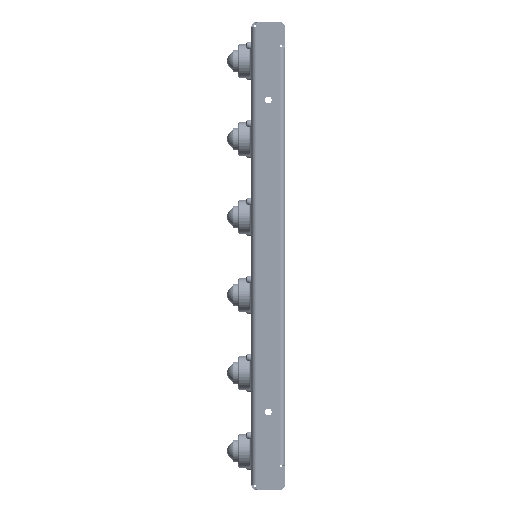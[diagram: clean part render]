
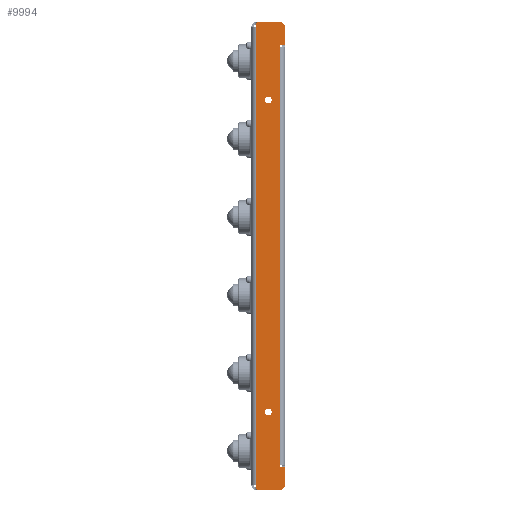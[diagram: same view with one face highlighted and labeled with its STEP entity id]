
A CAD part, left-side view. The second image highlights one B-rep face of the part: STEP entity #9994.
In plain terms, the highlighted planar face has unit normal (-1, 0, 0) as drawn and (0, 0, -1) by its records, which use the part's own axes.
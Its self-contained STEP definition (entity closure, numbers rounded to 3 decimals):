
#909=FACE_BOUND('',#3102,.T.);
#910=FACE_BOUND('',#3103,.T.);
#1283=CIRCLE('',#10387,1.);
#1286=CIRCLE('',#10394,1.);
#1659=CIRCLE('',#10961,4.5);
#1661=CIRCLE('',#10965,4.5);
#1672=CIRCLE('',#10994,2.);
#1673=CIRCLE('',#10997,6.4);
#1674=CIRCLE('',#10998,2.);
#1675=CIRCLE('',#10999,6.4);
#2608=FACE_OUTER_BOUND('',#3101,.T.);
#3101=EDGE_LOOP('',(#8281,#8282,#8283,#8284,#8285,#8286,#8287,#8288,#8289,
#8290,#8291,#8292,#8293,#8294,#8295,#8296,#8297,#8298,#8299,#8300));
#3102=EDGE_LOOP('',(#8301));
#3103=EDGE_LOOP('',(#8302));
#3817=LINE('',#15119,#4454);
#3829=LINE('',#15195,#4466);
#3834=LINE('',#15210,#4471);
#3835=LINE('',#15212,#4472);
#3836=LINE('',#15214,#4473);
#3837=LINE('',#15216,#4474);
#3838=LINE('',#15217,#4475);
#4096=LINE('',#16674,#4733);
#4098=LINE('',#16678,#4735);
#4099=LINE('',#16681,#4736);
#4100=LINE('',#16683,#4737);
#4101=LINE('',#16685,#4738);
#4102=LINE('',#16689,#4739);
#4103=LINE('',#16692,#4740);
#4454=VECTOR('',#11913,10.);
#4466=VECTOR('',#11943,10.);
#4471=VECTOR('',#11958,10.);
#4472=VECTOR('',#11959,10.);
#4473=VECTOR('',#11960,10.);
#4474=VECTOR('',#11961,10.);
#4475=VECTOR('',#11962,10.);
#4733=VECTOR('',#13404,10.);
#4735=VECTOR('',#13408,10.);
#4736=VECTOR('',#13411,10.);
#4737=VECTOR('',#13412,10.);
#4738=VECTOR('',#13413,10.);
#4739=VECTOR('',#13416,10.);
#4740=VECTOR('',#13419,10.);
#5036=VERTEX_POINT('',#15087);
#5037=VERTEX_POINT('',#15088);
#5042=VERTEX_POINT('',#15118);
#5052=VERTEX_POINT('',#15160);
#5053=VERTEX_POINT('',#15162);
#5057=VERTEX_POINT('',#15193);
#5062=VERTEX_POINT('',#15209);
#5063=VERTEX_POINT('',#15211);
#5064=VERTEX_POINT('',#15213);
#5065=VERTEX_POINT('',#15215);
#5474=VERTEX_POINT('',#16483);
#5476=VERTEX_POINT('',#16491);
#5510=VERTEX_POINT('',#16667);
#5511=VERTEX_POINT('',#16668);
#5512=VERTEX_POINT('',#16673);
#5513=VERTEX_POINT('',#16677);
#5514=VERTEX_POINT('',#16680);
#5515=VERTEX_POINT('',#16682);
#5516=VERTEX_POINT('',#16684);
#5517=VERTEX_POINT('',#16686);
#5518=VERTEX_POINT('',#16688);
#5519=VERTEX_POINT('',#16690);
#5906=EDGE_CURVE('',#5036,#5037,#1283,.T.);
#5912=EDGE_CURVE('',#5042,#5037,#3817,.T.);
#5924=EDGE_CURVE('',#5052,#5053,#1286,.T.);
#5932=EDGE_CURVE('',#5052,#5057,#3829,.T.);
#5939=EDGE_CURVE('',#5062,#5053,#3834,.T.);
#5940=EDGE_CURVE('',#5063,#5062,#3835,.T.);
#5941=EDGE_CURVE('',#5064,#5063,#3836,.T.);
#5942=EDGE_CURVE('',#5065,#5064,#3837,.T.);
#5943=EDGE_CURVE('',#5036,#5065,#3838,.T.);
#6540=EDGE_CURVE('',#5474,#5474,#1659,.T.);
#6544=EDGE_CURVE('',#5476,#5476,#1661,.T.);
#6596=EDGE_CURVE('',#5510,#5511,#1672,.T.);
#6599=EDGE_CURVE('',#5511,#5512,#4096,.T.);
#6601=EDGE_CURVE('',#5057,#5513,#4098,.T.);
#6602=EDGE_CURVE('',#5512,#5513,#1673,.T.);
#6603=EDGE_CURVE('',#5510,#5514,#4099,.T.);
#6604=EDGE_CURVE('',#5514,#5515,#4100,.T.);
#6605=EDGE_CURVE('',#5515,#5516,#4101,.T.);
#6606=EDGE_CURVE('',#5517,#5516,#1674,.T.);
#6607=EDGE_CURVE('',#5517,#5518,#4102,.T.);
#6608=EDGE_CURVE('',#5519,#5518,#1675,.T.);
#6609=EDGE_CURVE('',#5519,#5042,#4103,.T.);
#8281=ORIENTED_EDGE('',*,*,#5932,.T.);
#8282=ORIENTED_EDGE('',*,*,#6601,.T.);
#8283=ORIENTED_EDGE('',*,*,#6602,.F.);
#8284=ORIENTED_EDGE('',*,*,#6599,.F.);
#8285=ORIENTED_EDGE('',*,*,#6596,.F.);
#8286=ORIENTED_EDGE('',*,*,#6603,.T.);
#8287=ORIENTED_EDGE('',*,*,#6604,.T.);
#8288=ORIENTED_EDGE('',*,*,#6605,.T.);
#8289=ORIENTED_EDGE('',*,*,#6606,.F.);
#8290=ORIENTED_EDGE('',*,*,#6607,.T.);
#8291=ORIENTED_EDGE('',*,*,#6608,.F.);
#8292=ORIENTED_EDGE('',*,*,#6609,.T.);
#8293=ORIENTED_EDGE('',*,*,#5912,.T.);
#8294=ORIENTED_EDGE('',*,*,#5906,.F.);
#8295=ORIENTED_EDGE('',*,*,#5943,.T.);
#8296=ORIENTED_EDGE('',*,*,#5942,.T.);
#8297=ORIENTED_EDGE('',*,*,#5941,.T.);
#8298=ORIENTED_EDGE('',*,*,#5940,.T.);
#8299=ORIENTED_EDGE('',*,*,#5939,.T.);
#8300=ORIENTED_EDGE('',*,*,#5924,.F.);
#8301=ORIENTED_EDGE('',*,*,#6540,.T.);
#8302=ORIENTED_EDGE('',*,*,#6544,.T.);
#9586=PLANE('',#10996);
#9994=ADVANCED_FACE('',(#2608,#909,#910),#9586,.T.);
#10387=AXIS2_PLACEMENT_3D('',#15089,#11905,#11906);
#10394=AXIS2_PLACEMENT_3D('',#15163,#11930,#11931);
#10961=AXIS2_PLACEMENT_3D('',#16484,#13297,#13298);
#10965=AXIS2_PLACEMENT_3D('',#16492,#13307,#13308);
#10994=AXIS2_PLACEMENT_3D('',#16669,#13398,#13399);
#10996=AXIS2_PLACEMENT_3D('',#16676,#13406,#13407);
#10997=AXIS2_PLACEMENT_3D('',#16679,#13409,#13410);
#10998=AXIS2_PLACEMENT_3D('',#16687,#13414,#13415);
#10999=AXIS2_PLACEMENT_3D('',#16691,#13417,#13418);
#11905=DIRECTION('center_axis',(0.,0.,
-1.));
#11906=DIRECTION('ref_axis',(0.707,0.707,0.));
#11913=DIRECTION('',(0.,1.,0.));
#11930=DIRECTION('center_axis',(0.,0.,
-1.));
#11931=DIRECTION('ref_axis',(-0.707,0.707,0.));
#11943=DIRECTION('',(0.,-1.,0.));
#11958=DIRECTION('',(-1.,0.,0.));
#11959=DIRECTION('',(0.,1.,0.));
#11960=DIRECTION('',(-1.,0.,0.));
#11961=DIRECTION('',(0.,-1.,0.));
#11962=DIRECTION('',(-1.,0.,0.));
#13297=DIRECTION('center_axis',(0.,0.,
1.));
#13298=DIRECTION('ref_axis',(-1.,0.,0.));
#13307=DIRECTION('center_axis',(0.,0.,
1.));
#13308=DIRECTION('ref_axis',(-1.,0.,0.));
#13398=DIRECTION('center_axis',(0.,0.,
1.));
#13399=DIRECTION('ref_axis',(-0.707,0.707,0.));
#13404=DIRECTION('',(0.,-1.,0.));
#13406=DIRECTION('center_axis',(0.,0.,
-1.));
#13407=DIRECTION('ref_axis',(0.,1.,0.));
#13408=DIRECTION('',(-1.,0.,0.));
#13409=DIRECTION('center_axis',(0.,0.,
1.));
#13410=DIRECTION('ref_axis',(-0.707,-0.707,0.));
#13411=DIRECTION('',(1.,0.,0.));
#13412=DIRECTION('',(1.,0.,0.));
#13413=DIRECTION('',(1.,0.,0.));
#13414=DIRECTION('center_axis',(0.,0.,
1.));
#13415=DIRECTION('ref_axis',(0.707,0.707,0.));
#13416=DIRECTION('',(0.,-1.,0.));
#13417=DIRECTION('center_axis',(0.,0.,
1.));
#13418=DIRECTION('ref_axis',(0.707,-0.707,0.));
#13419=DIRECTION('',(-1.,0.,0.));
#15087=CARTESIAN_POINT('',(269.,-33.39,-450.));
#15088=CARTESIAN_POINT('',(270.,-34.39,-450.));
#15089=CARTESIAN_POINT('Origin',(269.,-34.39,-450.));
#15118=CARTESIAN_POINT('',(270.,-39.8,-450.));
#15119=CARTESIAN_POINT('',(270.,-29.393,-450.));
#15160=CARTESIAN_POINT('',(-270.,-34.39,-450.));
#15162=CARTESIAN_POINT('',(-269.,-33.39,-450.));
#15163=CARTESIAN_POINT('Origin',(-269.,-34.39,-450.));
#15193=CARTESIAN_POINT('',(-270.,-39.8,-450.));
#15195=CARTESIAN_POINT('',(-270.,-26.188,-450.));
#15209=CARTESIAN_POINT('',(-268.,-33.39,-450.));
#15210=CARTESIAN_POINT('',(-134.,-33.39,-450.));
#15211=CARTESIAN_POINT('',(-268.,-33.4,-450.));
#15212=CARTESIAN_POINT('',(-268.,-29.393,-450.));
#15213=CARTESIAN_POINT('',(268.,-33.4,-450.));
#15214=CARTESIAN_POINT('',(-134.95,-33.4,-450.));
#15215=CARTESIAN_POINT('',(268.,-33.39,-450.));
#15216=CARTESIAN_POINT('',(268.,-26.188,-450.));
#15217=CARTESIAN_POINT('',(135.,-33.39,-450.));
#16483=CARTESIAN_POINT('',(204.5,-18.3,-450.));
#16484=CARTESIAN_POINT('Origin',(200.,-18.3,-450.));
#16491=CARTESIAN_POINT('',(-195.5,-18.3,-450.));
#16492=CARTESIAN_POINT('Origin',(-200.,-18.3,-450.));
#16667=CARTESIAN_POINT('',(-298.,-3.2,-450.));
#16668=CARTESIAN_POINT('',(-300.,-5.2,-450.));
#16669=CARTESIAN_POINT('Origin',(-298.,-5.2,-450.));
#16673=CARTESIAN_POINT('',(-300.,-33.4,-450.));
#16674=CARTESIAN_POINT('',(-300.,1.827,-450.));
#16676=CARTESIAN_POINT('Origin',(0.,-18.987,
-450.));
#16677=CARTESIAN_POINT('',(-293.6,-39.8,-450.));
#16678=CARTESIAN_POINT('',(300.,-39.8,-450.));
#16679=CARTESIAN_POINT('Origin',(-293.6,-33.4,-450.));
#16680=CARTESIAN_POINT('',(-295.6,-3.2,-450.));
#16681=CARTESIAN_POINT('',(0.,-3.2,-450.));
#16682=CARTESIAN_POINT('',(295.6,-3.2,-450.));
#16683=CARTESIAN_POINT('',(0.,-3.2,-450.));
#16684=CARTESIAN_POINT('',(298.,-3.2,-450.));
#16685=CARTESIAN_POINT('',(0.,-3.2,-450.));
#16686=CARTESIAN_POINT('',(300.,-5.2,-450.));
#16687=CARTESIAN_POINT('Origin',(298.,-5.2,-450.));
#16688=CARTESIAN_POINT('',(300.,-33.4,-450.));
#16689=CARTESIAN_POINT('',(300.,1.827,-450.));
#16690=CARTESIAN_POINT('',(293.6,-39.8,-450.));
#16691=CARTESIAN_POINT('Origin',(293.6,-33.4,-450.));
#16692=CARTESIAN_POINT('',(300.,-39.8,-450.));
